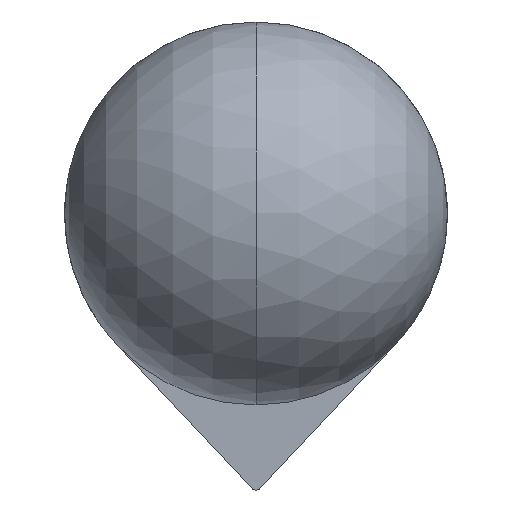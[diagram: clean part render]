
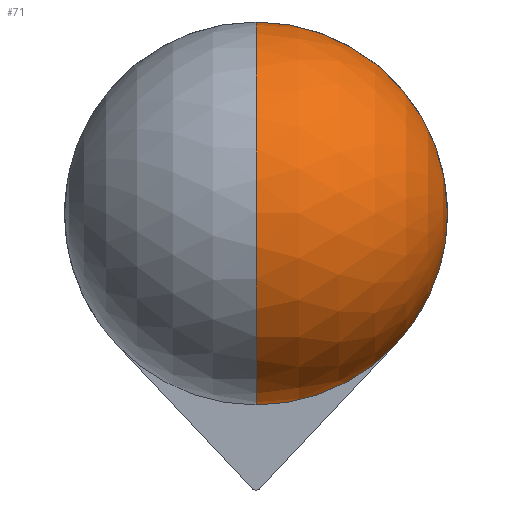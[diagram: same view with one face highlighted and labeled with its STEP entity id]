
A CAD part, front view. The second image highlights one B-rep face of the part: STEP entity #71.
In plain terms, the highlighted spherical face has radius 9 mm.
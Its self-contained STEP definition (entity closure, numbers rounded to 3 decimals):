
#21 = CARTESIAN_POINT ( 'NONE',  ( 0., 57.5, 0. ) ) ;
#44 = AXIS2_PLACEMENT_3D ( 'NONE', #684, #295, #943 ) ;
#71 = ADVANCED_FACE ( 'NONE', ( #674 ), #858, .T. ) ;
#117 = DIRECTION ( 'NONE',  ( 0., 1., 0. ) ) ;
#152 = ORIENTED_EDGE ( 'NONE', *, *, #226, .F. ) ;
#154 = DIRECTION ( 'NONE',  ( 0., 1., 0. ) ) ;
#193 = AXIS2_PLACEMENT_3D ( 'NONE', #773, #694, #586 ) ;
#226 = EDGE_CURVE ( 'NONE', #888, #248, #849, .T. ) ;
#248 = VERTEX_POINT ( 'NONE', #815 ) ;
#271 = CIRCLE ( 'NONE', #892, 9. ) ;
#295 = DIRECTION ( 'NONE',  ( 1., 0., 0. ) ) ;
#307 = ORIENTED_EDGE ( 'NONE', *, *, #772, .T. ) ;
#308 = EDGE_LOOP ( 'NONE', ( #470, #1134, #152, #307 ) ) ;
#322 = DIRECTION ( 'NONE',  ( -1., 0., 0. ) ) ;
#359 = CARTESIAN_POINT ( 'NONE',  ( -6.557, 57.5, -6.165 ) ) ;
#470 = ORIENTED_EDGE ( 'NONE', *, *, #1108, .T. ) ;
#572 = DIRECTION ( 'NONE',  ( 0., 0., 1. ) ) ;
#585 = CARTESIAN_POINT ( 'NONE',  ( 0., 57.5, 9. ) ) ;
#586 = DIRECTION ( 'NONE',  ( 0., 0., 1. ) ) ;
#607 = CIRCLE ( 'NONE', #193, 9. ) ;
#659 = EDGE_CURVE ( 'NONE', #1148, #248, #607, .T. ) ;
#674 = FACE_OUTER_BOUND ( 'NONE', #308, .T. ) ;
#684 = CARTESIAN_POINT ( 'NONE',  ( 0., 57.5, 0. ) ) ;
#694 = DIRECTION ( 'NONE',  ( -1., 0., 0. ) ) ;
#696 = CARTESIAN_POINT ( 'NONE',  ( 0., 57.5, 0. ) ) ;
#704 = CARTESIAN_POINT ( 'NONE',  ( 0., 57.5, 0. ) ) ;
#716 = DIRECTION ( 'NONE',  ( 0., 0., 1. ) ) ;
#772 = EDGE_CURVE ( 'NONE', #888, #855, #823, .T. ) ;
#773 = CARTESIAN_POINT ( 'NONE',  ( 0., 57.5, 0. ) ) ;
#813 = AXIS2_PLACEMENT_3D ( 'NONE', #704, #154, #716 ) ;
#815 = CARTESIAN_POINT ( 'NONE',  ( 0., 66.5, 0. ) ) ;
#823 = CIRCLE ( 'NONE', #813, 9. ) ;
#849 = CIRCLE ( 'NONE', #44, 9. ) ;
#855 = VERTEX_POINT ( 'NONE', #359 ) ;
#858 = SPHERICAL_SURFACE ( 'NONE', #1117, 9. ) ;
#888 = VERTEX_POINT ( 'NONE', #1075 ) ;
#892 = AXIS2_PLACEMENT_3D ( 'NONE', #21, #117, #572 ) ;
#943 = DIRECTION ( 'NONE',  ( 0., 0., -1. ) ) ;
#1058 = DIRECTION ( 'NONE',  ( 0., 0., -1. ) ) ;
#1075 = CARTESIAN_POINT ( 'NONE',  ( 0., 57.5, -9. ) ) ;
#1108 = EDGE_CURVE ( 'NONE', #855, #1148, #271, .T. ) ;
#1117 = AXIS2_PLACEMENT_3D ( 'NONE', #696, #322, #1058 ) ;
#1134 = ORIENTED_EDGE ( 'NONE', *, *, #659, .T. ) ;
#1148 = VERTEX_POINT ( 'NONE', #585 ) ;
